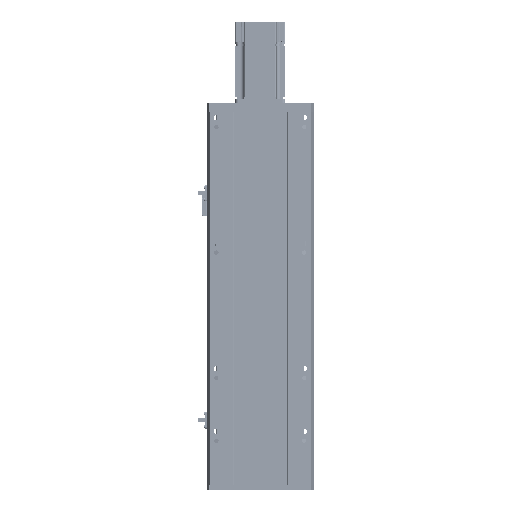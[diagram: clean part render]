
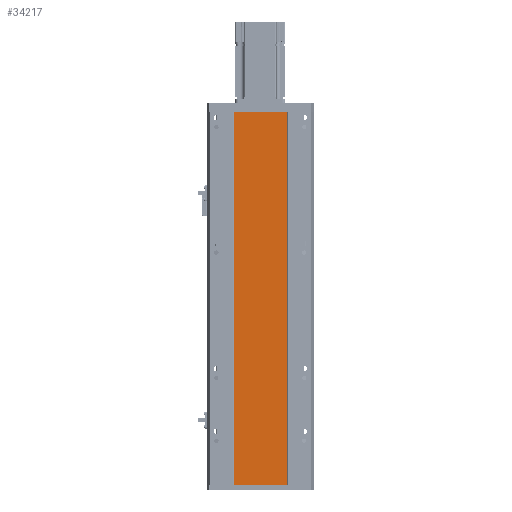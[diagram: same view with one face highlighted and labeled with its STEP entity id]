
A CAD part, front view. The second image highlights one B-rep face of the part: STEP entity #34217.
In plain terms, the highlighted planar face has unit normal (0, -1, 0).
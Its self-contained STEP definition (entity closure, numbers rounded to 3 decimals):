
#2647 = AXIS2_PLACEMENT_3D ( 'NONE', #18428, #81181, #34190 ) ;
#3416 = CARTESIAN_POINT ( 'NONE',  ( -42., 0., 0. ) ) ;
#3456 = LINE ( 'NONE', #88760, #84389 ) ;
#9418 = VECTOR ( 'NONE', #58319, 1000. ) ;
#10517 = PLANE ( 'NONE',  #2647 ) ;
#14288 = VERTEX_POINT ( 'NONE', #85801 ) ;
#18428 = CARTESIAN_POINT ( 'NONE',  ( -42., 0., -595. ) ) ;
#19944 = FACE_OUTER_BOUND ( 'NONE', #34987, .T. ) ;
#22199 = EDGE_CURVE ( 'NONE', #24329, #69507, #42174, .T. ) ;
#24329 = VERTEX_POINT ( 'NONE', #56060 ) ;
#31485 = CARTESIAN_POINT ( 'NONE',  ( 42., 0., -595. ) ) ;
#31940 = LINE ( 'NONE', #33831, #68768 ) ;
#33408 = CARTESIAN_POINT ( 'NONE',  ( -42., 0., -595. ) ) ;
#33831 = CARTESIAN_POINT ( 'NONE',  ( 42., 0., -595. ) ) ;
#34190 = DIRECTION ( 'NONE',  ( 0., 0., -1. ) ) ;
#34217 = ADVANCED_FACE ( 'NONE', ( #19944 ), #10517, .T. ) ;
#34987 = EDGE_LOOP ( 'NONE', ( #37606, #82714, #45041, #82773 ) ) ;
#36348 = EDGE_CURVE ( 'NONE', #56266, #14288, #31940, .T. ) ;
#37560 = EDGE_CURVE ( 'NONE', #24329, #56266, #3456, .T. ) ;
#37606 = ORIENTED_EDGE ( 'NONE', *, *, #38265, .F. ) ;
#38265 = EDGE_CURVE ( 'NONE', #69507, #14288, #51176, .T. ) ;
#42174 = LINE ( 'NONE', #33408, #65514 ) ;
#45041 = ORIENTED_EDGE ( 'NONE', *, *, #37560, .T. ) ;
#51176 = LINE ( 'NONE', #3416, #9418 ) ;
#56060 = CARTESIAN_POINT ( 'NONE',  ( -42., 0., -595. ) ) ;
#56266 = VERTEX_POINT ( 'NONE', #31485 ) ;
#58319 = DIRECTION ( 'NONE',  ( 1., 0., 0. ) ) ;
#64653 = DIRECTION ( 'NONE',  ( 0., 0., 1. ) ) ;
#65514 = VECTOR ( 'NONE', #64653, 1000. ) ;
#68768 = VECTOR ( 'NONE', #96897, 1000. ) ;
#69507 = VERTEX_POINT ( 'NONE', #94659 ) ;
#81181 = DIRECTION ( 'NONE',  ( 0., -1., 0. ) ) ;
#82714 = ORIENTED_EDGE ( 'NONE', *, *, #22199, .F. ) ;
#82773 = ORIENTED_EDGE ( 'NONE', *, *, #36348, .T. ) ;
#84389 = VECTOR ( 'NONE', #96679, 1000. ) ;
#85801 = CARTESIAN_POINT ( 'NONE',  ( 42., 0., 0. ) ) ;
#88760 = CARTESIAN_POINT ( 'NONE',  ( -42., 0., -595. ) ) ;
#94659 = CARTESIAN_POINT ( 'NONE',  ( -42., 0., 0. ) ) ;
#96679 = DIRECTION ( 'NONE',  ( 1., 0., 0. ) ) ;
#96897 = DIRECTION ( 'NONE',  ( 0., 0., 1. ) ) ;
